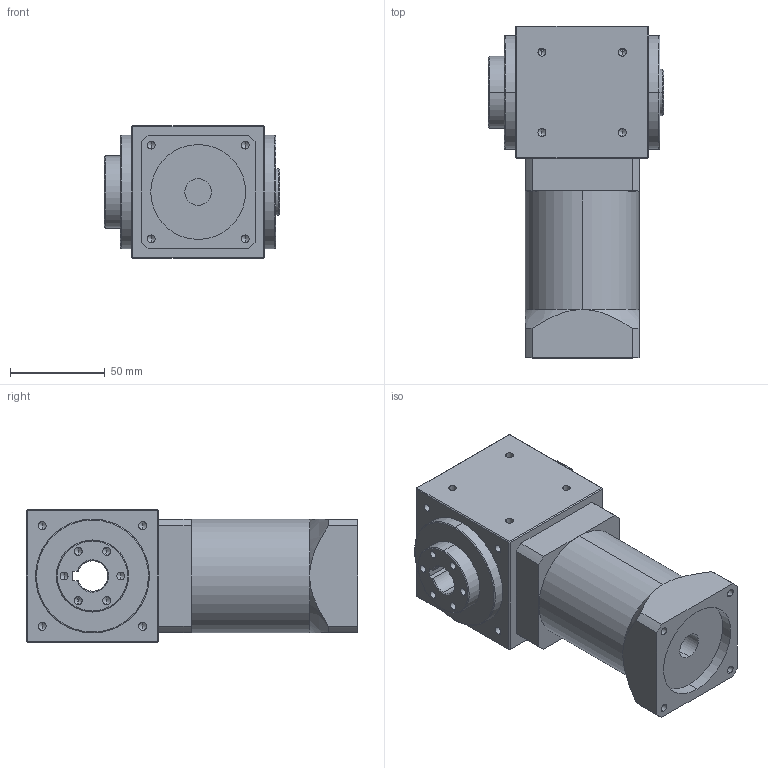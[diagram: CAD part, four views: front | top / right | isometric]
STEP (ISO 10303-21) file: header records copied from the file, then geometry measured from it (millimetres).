
FILE_DESCRIPTION (( 'STEP AP214' ), '1' );
FILE_NAME ('RXW070AS-L2-RFK-400W.STEP', '2020-11-21T09:02:59', ( '微软用户' ), ( '微软中国' ), 'SwSTEP 2.0', 'SolidWorks 2014', '' );
FILE_SCHEMA (( 'AUTOMOTIVE_DESIGN' ));
Length unit declared in the file: millimetre
Products named in the file (2): RXW070AS-L2-RFK-400W
Bounding box: 92.5 x 175 x 70 mm (x, y, z)
Volume: 672497.1 mm3; surface area: 66664.4 mm2
Topology: 1 solids, 1 shells, 210 faces, 513 edges, 274 vertices
Faces by surface type: cylinder 85, cone 73, plane 48, bspline 4
Entity records: 8232 total; most frequent: CARTESIAN_POINT 1231, DIRECTION 1025, ORIENTED_EDGE 906, EDGE_CURVE 453, AXIS2_PLACEMENT_3D 396, VERTEX_POINT 274, EDGE_LOOP 249, LINE 233
